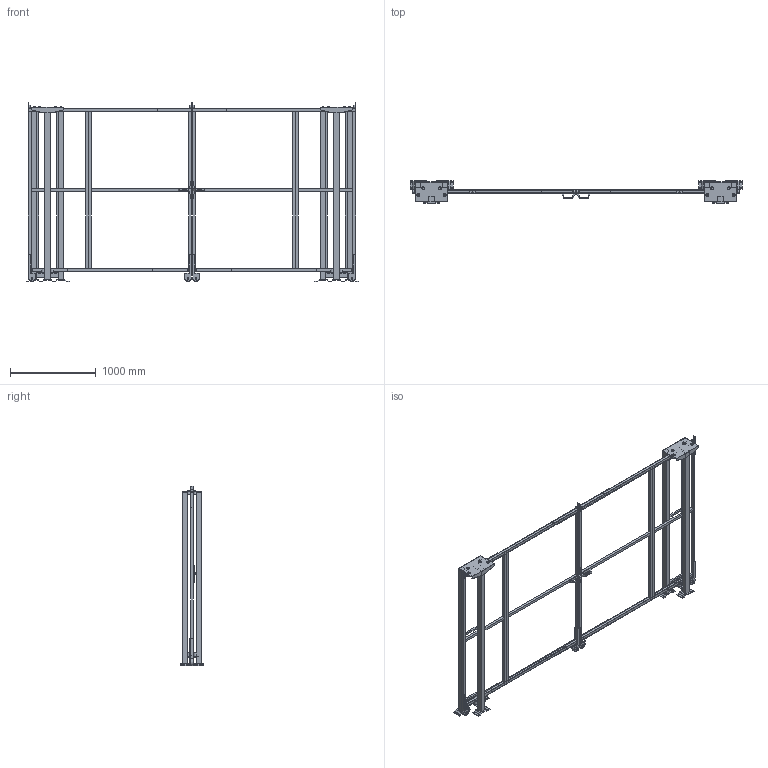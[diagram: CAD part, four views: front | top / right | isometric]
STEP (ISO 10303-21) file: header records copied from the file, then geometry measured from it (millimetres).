
FILE_DESCRIPTION(/* description */ (''),/* implementation_level */ '2;1');
FILE_NAME(/* name */ 'C:\SafeGuarding\ELABORATI\KLADKA2KR_2025-03-25-09-45-38.stp',/* time_stamp */ '2025-03-25T09:45:43+01:00',/* author */ ('admin'),/* organization */ (''),/* preprocessor_version */ 'ST-DEVELOPER v18.1',/* originating_system */ 'AutoCAD Mechanical',/* authorisation */ '');
FILE_SCHEMA (('AUTOMOTIVE_DESIGN { 1 0 10303 214 3 1 1 }'));
Length unit declared in the file: millimetre
Products named in the file (5): Product; R_VFPA.REPE30.07001900; R_VFPA.REPE30.12001900; R_VFPA.REPE20.02501900; P_VFMA.V260SDU.2020
Assembly tree (12 placements, depth 2):
  Product
    R_VFPA.REPE30.07001900  x2
    R_VFPA.REPE30.12001900  x2
    R_VFPA.REPE20.02501900  x2
    P_VFMA.V260SDU.2020  x6
Bounding box: 3871.92 x 264.01 x 2090.02 mm (x, y, z)
Volume: 76808353.5 mm3; surface area: 11228047.5 mm2
Topology: 108 solids, 130 shells, 946 faces, 2930 edges, 3006 vertices
Faces by surface type: plane 870, cylinder 76
Full cylindrical faces by diameter (mm): 9 x8, 11 x24, 13 x8, 14 x4, 30 x12, 36 x16, 80 x4
Entity records: 23893 total; most frequent: CARTESIAN_POINT 5088, DIRECTION 3635, ORIENTED_EDGE 3372, EDGE_CURVE 1784, LINE 1693, VECTOR 1693, VERTEX_POINT 1268, AXIS2_PLACEMENT_3D 971
